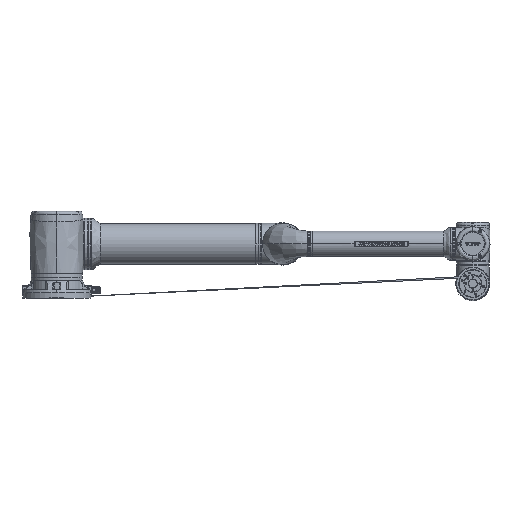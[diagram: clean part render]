
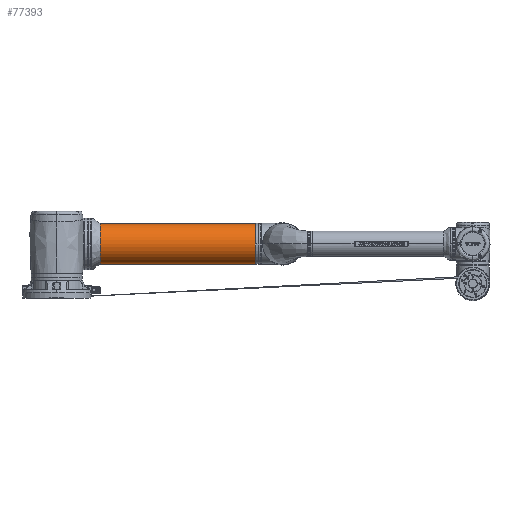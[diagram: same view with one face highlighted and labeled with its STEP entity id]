
A CAD part, top view. The second image highlights one B-rep face of the part: STEP entity #77393.
In plain terms, the highlighted cylindrical face has radius 74 mm (diameter 148 mm), a partial arc.
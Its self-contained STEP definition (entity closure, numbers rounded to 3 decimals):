
#45 = CARTESIAN_POINT ( 'NONE',  ( 107.483, 418.564, 1043.18 ) ) ;
#4066 = VECTOR ( 'NONE', #70221, 1000. ) ;
#6252 = CARTESIAN_POINT ( 'NONE',  ( 33.483, -143.436, 1043.18 ) ) ;
#6864 = DIRECTION ( 'NONE',  ( 1., 0., 0. ) ) ;
#8659 = CARTESIAN_POINT ( 'NONE',  ( 107.483, -176.436, 1043.18 ) ) ;
#11489 = CIRCLE ( 'NONE', #32469, 74. ) ;
#13705 = CARTESIAN_POINT ( 'NONE',  ( 181.483, 418.564, 1043.18 ) ) ;
#15194 = CARTESIAN_POINT ( 'NONE',  ( 33.483, 418.564, 1043.18 ) ) ;
#16835 = ORIENTED_EDGE ( 'NONE', *, *, #46653, .T. ) ;
#17179 = CARTESIAN_POINT ( 'NONE',  ( 181.483, -143.436, 1043.18 ) ) ;
#21537 = AXIS2_PLACEMENT_3D ( 'NONE', #8659, #109353, #6864 ) ;
#23458 = CARTESIAN_POINT ( 'NONE',  ( 33.483, -176.436, 1043.18 ) ) ;
#24635 = LINE ( 'NONE', #23458, #4066 ) ;
#24701 = CARTESIAN_POINT ( 'NONE',  ( 181.483, -176.436, 1043.18 ) ) ;
#26007 = DIRECTION ( 'NONE',  ( 0., -1., 0. ) ) ;
#26743 = VECTOR ( 'NONE', #106649, 1000. ) ;
#28514 = DIRECTION ( 'NONE',  ( 1., 0., 0. ) ) ;
#28983 = ORIENTED_EDGE ( 'NONE', *, *, #42672, .T. ) ;
#32162 = VERTEX_POINT ( 'NONE', #13705 ) ;
#32469 = AXIS2_PLACEMENT_3D ( 'NONE', #78767, #69059, #89606 ) ;
#34534 = CIRCLE ( 'NONE', #50092, 74. ) ;
#37045 = DIRECTION ( 'NONE',  ( 0., -1., 0. ) ) ;
#38532 = ORIENTED_EDGE ( 'NONE', *, *, #58030, .T. ) ;
#42672 = EDGE_CURVE ( 'NONE', #102965, #32162, #59265, .T. ) ;
#44959 = EDGE_CURVE ( 'NONE', #32162, #88473, #106044, .T. ) ;
#46653 = EDGE_CURVE ( 'NONE', #70219, #102965, #34534, .T. ) ;
#49569 = AXIS2_PLACEMENT_3D ( 'NONE', #100625, #26007, #101211 ) ;
#50092 = AXIS2_PLACEMENT_3D ( 'NONE', #45, #37045, #28514 ) ;
#54774 = FACE_OUTER_BOUND ( 'NONE', #115750, .T. ) ;
#58030 = EDGE_CURVE ( 'NONE', #88473, #108193, #11489, .T. ) ;
#59265 = CIRCLE ( 'NONE', #49569, 74. ) ;
#69059 = DIRECTION ( 'NONE',  ( 0., 1., 0. ) ) ;
#70219 = VERTEX_POINT ( 'NONE', #15194 ) ;
#70221 = DIRECTION ( 'NONE',  ( 0., -1., 0. ) ) ;
#71187 = CYLINDRICAL_SURFACE ( 'NONE', #21537, 74. ) ;
#77393 = ADVANCED_FACE ( 'NONE', ( #54774 ), #71187, .T. ) ;
#78767 = CARTESIAN_POINT ( 'NONE',  ( 107.483, -143.436, 1043.18 ) ) ;
#84292 = ORIENTED_EDGE ( 'NONE', *, *, #44959, .T. ) ;
#87386 = ORIENTED_EDGE ( 'NONE', *, *, #92834, .F. ) ;
#88473 = VERTEX_POINT ( 'NONE', #17179 ) ;
#89606 = DIRECTION ( 'NONE',  ( 1., 0., 0. ) ) ;
#92834 = EDGE_CURVE ( 'NONE', #70219, #108193, #24635, .T. ) ;
#98877 = CARTESIAN_POINT ( 'NONE',  ( 107.483, 418.564, 969.18 ) ) ;
#100625 = CARTESIAN_POINT ( 'NONE',  ( 107.483, 418.564, 1043.18 ) ) ;
#101211 = DIRECTION ( 'NONE',  ( 1., 0., 0. ) ) ;
#102965 = VERTEX_POINT ( 'NONE', #98877 ) ;
#106044 = LINE ( 'NONE', #24701, #26743 ) ;
#106649 = DIRECTION ( 'NONE',  ( 0., -1., 0. ) ) ;
#108193 = VERTEX_POINT ( 'NONE', #6252 ) ;
#109353 = DIRECTION ( 'NONE',  ( 0., -1., 0. ) ) ;
#115750 = EDGE_LOOP ( 'NONE', ( #87386, #16835, #28983, #84292, #38532 ) ) ;
